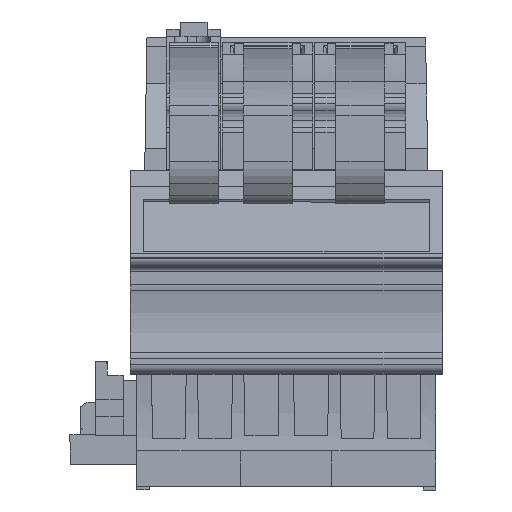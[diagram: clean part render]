
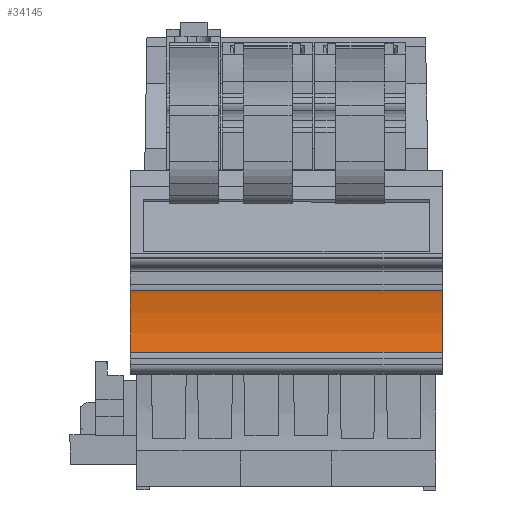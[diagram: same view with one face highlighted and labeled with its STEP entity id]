
A CAD part, front view. The second image highlights one B-rep face of the part: STEP entity #34145.
In plain terms, the highlighted cylindrical face has radius 15.05 mm (diameter 30.1 mm), a partial arc.
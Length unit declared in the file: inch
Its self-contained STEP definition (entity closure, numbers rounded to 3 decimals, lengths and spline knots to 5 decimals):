
#2414=CARTESIAN_POINT('',(1.35039,-3.58303,
0.5));
#2415=DIRECTION('',(-1.,0.,0.));
#2416=DIRECTION('',(0.,0.981,0.196));
#2417=AXIS2_PLACEMENT_3D('',#2414,#2415,#2416);
#2419=CARTESIAN_POINT('',(1.35039,-3.58303,
0.5));
#2420=DIRECTION('',(-1.,0.,0.));
#2421=DIRECTION('',(0.,0.976,0.22));
#2422=AXIS2_PLACEMENT_3D('',#2419,#2420,#2421);
#2608=CARTESIAN_POINT('',(-0.02756,-3.58303,
0.5));
#2609=DIRECTION('',(1.,0.,0.));
#2610=DIRECTION('',(0.,0.981,0.196));
#2611=AXIS2_PLACEMENT_3D('',#2608,#2609,#2610);
#2613=CARTESIAN_POINT('',(-0.02756,-3.58303,
0.5));
#2614=DIRECTION('',(1.,0.,0.));
#2615=DIRECTION('',(0.,0.97,-0.243));
#2616=AXIS2_PLACEMENT_3D('',#2613,#2614,#2615);
#2792=DIRECTION('',(1.,0.,0.));
#2793=VECTOR('',#2792,1.37795);
#2794=CARTESIAN_POINT('',(-0.02756,-3.00499,
0.63017));
#2795=LINE('',#2794,#2793);
#2796=DIRECTION('',(1.,0.,0.));
#2797=VECTOR('',#2796,1.37795);
#2798=CARTESIAN_POINT('',(-0.02756,-3.00827,
0.35603));
#2799=LINE('',#2798,#2797);
#28822=CARTESIAN_POINT('',(-0.02756,-3.00499,
0.63017));
#28823=VERTEX_POINT('',#28822);
#28824=CARTESIAN_POINT('',(-0.02756,-3.002,
0.6161));
#28825=VERTEX_POINT('',#28824);
#28826=CARTESIAN_POINT('',(-0.02756,-3.00827,
0.35603));
#28827=VERTEX_POINT('',#28826);
#29559=CARTESIAN_POINT('',(1.35039,-3.00827,
0.35603));
#29560=VERTEX_POINT('',#29559);
#29561=CARTESIAN_POINT('',(1.35039,-3.00499,
0.63017));
#29562=CARTESIAN_POINT('',(1.35039,-3.002,
0.6161));
#29563=VERTEX_POINT('',#29561);
#29564=VERTEX_POINT('',#29562);
#34131=CARTESIAN_POINT('',(1.35039,-3.58303,
0.5));
#34132=DIRECTION('',(-1.,0.,0.));
#34133=DIRECTION('',(0.,-0.981,
-0.196));
#34134=AXIS2_PLACEMENT_3D('',#34131,#34132,#34133);
#34135=CYLINDRICAL_SURFACE('',#34134,0.59252);
#34136=ORIENTED_EDGE('',*,*,#33961,.T.);
#34137=ORIENTED_EDGE('',*,*,#34125,.T.);
#34138=ORIENTED_EDGE('',*,*,#33606,.T.);
#34139=ORIENTED_EDGE('',*,*,#33604,.T.);
#34141=ORIENTED_EDGE('',*,*,#34140,.F.);
#34142=ORIENTED_EDGE('',*,*,#33963,.T.);
#34143=EDGE_LOOP('',(#34136,#34137,#34138,#34139,#34141,#34142));
#34144=FACE_OUTER_BOUND('',#34143,.F.);
#34145=ADVANCED_FACE('',(#34144),#34135,.F.);
#2418=CIRCLE('',#2417,0.59252);
#2423=CIRCLE('',#2422,0.59252);
#2612=CIRCLE('',#2611,0.59252);
#2617=CIRCLE('',#2616,0.59252);
#33604=EDGE_CURVE('',#29564,#29560,#2418,.T.);
#33606=EDGE_CURVE('',#29563,#29564,#2423,.T.);
#33961=EDGE_CURVE('',#28825,#28823,#2612,.T.);
#33963=EDGE_CURVE('',#28827,#28825,#2617,.T.);
#34125=EDGE_CURVE('',#28823,#29563,#2795,.T.);
#34140=EDGE_CURVE('',#28827,#29560,#2799,.T.);
